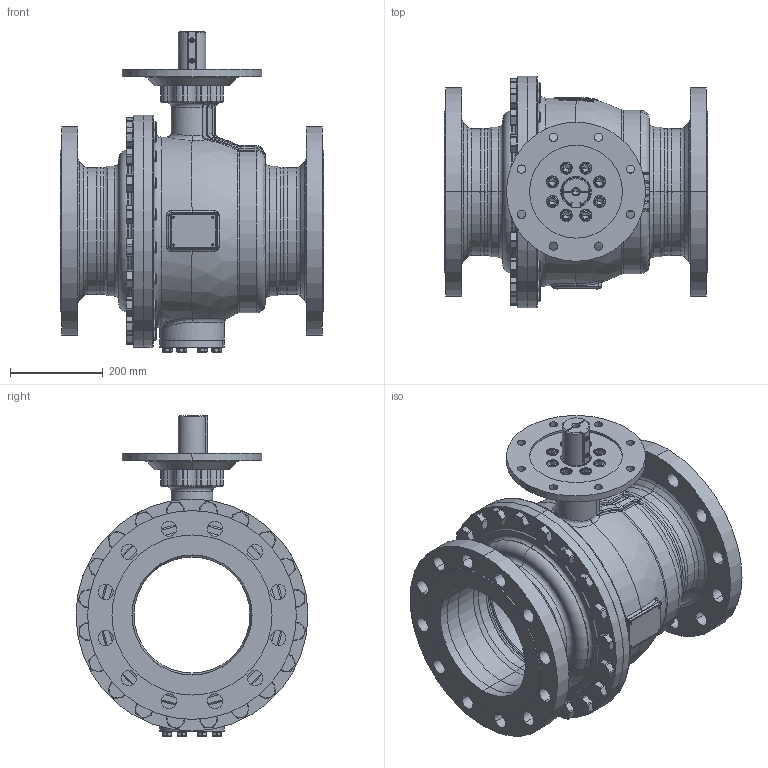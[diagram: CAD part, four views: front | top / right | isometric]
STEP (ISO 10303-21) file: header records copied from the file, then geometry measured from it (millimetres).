
FILE_DESCRIPTION((''),'2;1');
FILE_NAME('KHI-F_250_PN040-F25-P_SW0001','2026-02-05T14:12:00',('fischerkl'),('KLINGER'),'CREO PARAMETRIC BY PTC INC, 2023014','CREO PARAMETRIC BY PTC INC, 2023014','');
FILE_SCHEMA(('CONFIG_CONTROL_DESIGN'));
Products named in the file (1): KHI-F_250_PN040-F25-P_SW0001
Bounding box: 568 x 500 x 689.8 mm (x, y, z)
Volume: 25431526 mm3; surface area: 3621839.3 mm2
Topology: 1 solids, 4 shells, 3284 faces, 8297 edges, 5168 vertices
Faces by surface type: plane 1684, cylinder 770, cone 389, torus 314, bspline 97, sphere 30
Entity records: 134240 total; most frequent: CARTESIAN_POINT 56231, ORIENTED_EDGE 16534, DIRECTION 16036, EDGE_CURVE 8267, AXIS2_PLACEMENT_3D 6060, VERTEX_POINT 5168, VECTOR 3916, LINE 3916
